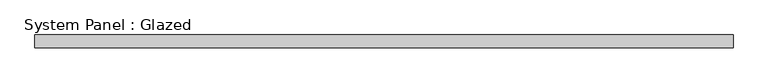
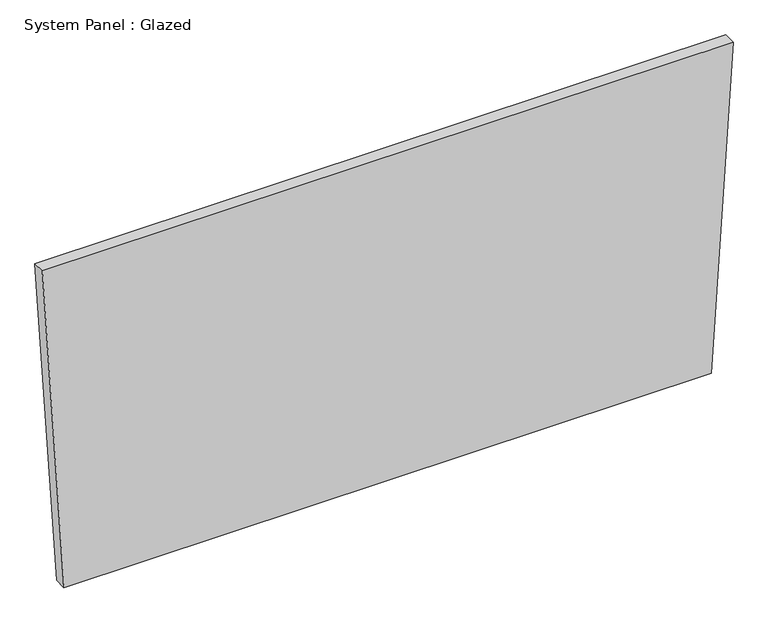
"""IFC4 building model written with IfcOpenShell, lengths in millimetres: plate geometry, System Panel : Glazed."""

from ifc_helpers import new_model, si_unit, frame, origin, place, context, project, spatial, polyline, outline, extrude, source, transform, mapped, element, save


def system_panel_glazed_0b7128df(model_context):
    return source(origin(), model_context, "Body", "SweptSolid", [
        extrude(outline(polyline([(0.0002222, -645.8600996), (0.0, 645.8601006), (682.9078982, 688.9756643), (682.9081352, -688.9756643), (0.0002222, -645.8600996)])), frame((0.0, 19.05, 0.0), z_axis=(0.0, 1.0, 0.0), x_axis=(0.0, 0.0, 1.0)), (0.0, 0.0, 1.0), 25.4),
    ])


if __name__ == "__main__":
    model = new_model("IFC4")
    model_context = context("Model", 3, world=origin())
    ifc_project = project(units=[si_unit("LENGTHUNIT", "METRE", prefix="MILLI")], contexts=[model_context])
    site = spatial("IfcSite", under=ifc_project)
    building = spatial("IfcBuilding", under=site)
    placement = place(None, origin())
    system_panel_glazed_shape = system_panel_glazed_0b7128df(model_context)
    element("IfcPlate", 1, ObjectType="System Panel : Glazed", at=placement, inside=building, context=model_context, shape_type="MappedRepresentation", body=[
        mapped(system_panel_glazed_shape, transform((0.0, 0.0, 0.0), x_axis=(1.0, 0.0, 0.0), y_axis=(0.0, 1.0, 0.0), z_axis=(0.0, 0.0, 1.0))),
    ])
    save(model, "model.ifc")
